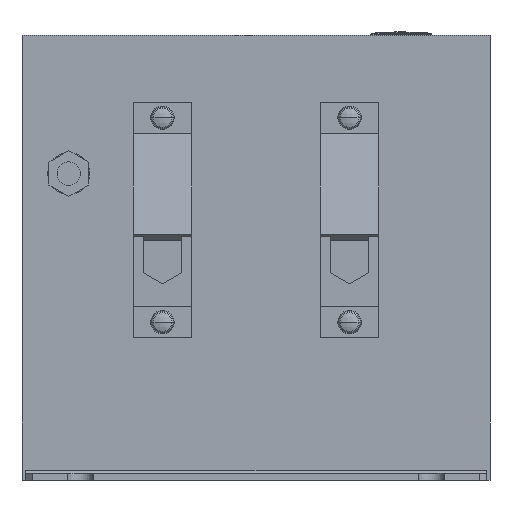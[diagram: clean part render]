
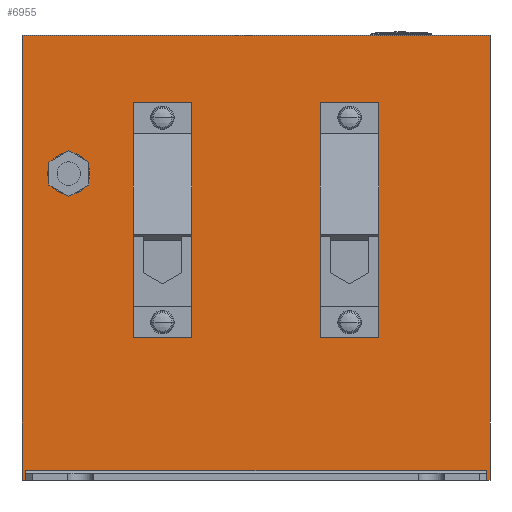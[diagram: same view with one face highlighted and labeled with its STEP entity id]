
A CAD part, front view. The second image highlights one B-rep face of the part: STEP entity #6955.
In plain terms, the highlighted planar face has unit normal (0, -1, 0).
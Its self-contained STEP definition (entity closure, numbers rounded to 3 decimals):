
#95 = FACE_BOUND ( 'NONE', #3796, .T. ) ;
#117 = VERTEX_POINT ( 'NONE', #2420 ) ;
#128 = VECTOR ( 'NONE', #5386, 1000. ) ;
#289 = CARTESIAN_POINT ( 'NONE',  ( 52.5, -248.5, 102.4 ) ) ;
#307 = CARTESIAN_POINT ( 'NONE',  ( -27.5, -248.5, 161.5 ) ) ;
#322 = DIRECTION ( 'NONE',  ( 0., 0., 1. ) ) ;
#334 = VERTEX_POINT ( 'NONE', #6936 ) ;
#391 = ORIENTED_EDGE ( 'NONE', *, *, #8195, .F. ) ;
#407 = CARTESIAN_POINT ( 'NONE',  ( -80., -248.5, 131. ) ) ;
#443 = EDGE_CURVE ( 'NONE', #6466, #7477, #7190, .T. ) ;
#468 = VECTOR ( 'NONE', #3237, 1000. ) ;
#528 = ORIENTED_EDGE ( 'NONE', *, *, #1593, .F. ) ;
#529 = LINE ( 'NONE', #4407, #468 ) ;
#603 = DIRECTION ( 'NONE',  ( 0., 0., -1. ) ) ;
#675 = VECTOR ( 'NONE', #6507, 1000. ) ;
#688 = VECTOR ( 'NONE', #4532, 1000. ) ;
#772 = VERTEX_POINT ( 'NONE', #8397 ) ;
#866 = EDGE_CURVE ( 'NONE', #4604, #6785, #2213, .T. ) ;
#904 = DIRECTION ( 'NONE',  ( 1., 0., 0. ) ) ;
#922 = EDGE_CURVE ( 'NONE', #5383, #334, #8044, .T. ) ;
#988 = CARTESIAN_POINT ( 'NONE',  ( 27.5, -248.5, 60.8 ) ) ;
#1007 = VERTEX_POINT ( 'NONE', #2733 ) ;
#1110 = VERTEX_POINT ( 'NONE', #2920 ) ;
#1293 = CARTESIAN_POINT ( 'NONE',  ( 100., -248.5, 0. ) ) ;
#1337 = LINE ( 'NONE', #7319, #128 ) ;
#1405 = ORIENTED_EDGE ( 'NONE', *, *, #5310, .T. ) ;
#1462 = ORIENTED_EDGE ( 'NONE', *, *, #2715, .F. ) ;
#1521 = ORIENTED_EDGE ( 'NONE', *, *, #8185, .F. ) ;
#1556 = DIRECTION ( 'NONE',  ( 0., 0., -1. ) ) ;
#1593 = EDGE_CURVE ( 'NONE', #8266, #772, #7853, .T. ) ;
#1622 = CARTESIAN_POINT ( 'NONE',  ( 98.5, -248.5, 1.5 ) ) ;
#1784 = VERTEX_POINT ( 'NONE', #3292 ) ;
#1787 = CARTESIAN_POINT ( 'NONE',  ( 98.5, -248.5, 2.5 ) ) ;
#1838 = CARTESIAN_POINT ( 'NONE',  ( 52.5, -248.5, 161.5 ) ) ;
#1860 = CARTESIAN_POINT ( 'NONE',  ( 100., -248.5, 0. ) ) ;
#1901 = DIRECTION ( 'NONE',  ( 1., 0., 0. ) ) ;
#1928 = ORIENTED_EDGE ( 'NONE', *, *, #8444, .F. ) ;
#1991 = ORIENTED_EDGE ( 'NONE', *, *, #4908, .F. ) ;
#2018 = CARTESIAN_POINT ( 'NONE',  ( -100., -248.5, 190. ) ) ;
#2148 = CIRCLE ( 'NONE', #4906, 9. ) ;
#2149 = VECTOR ( 'NONE', #904, 1000. ) ;
#2153 = VECTOR ( 'NONE', #3908, 1000. ) ;
#2213 = LINE ( 'NONE', #4856, #7746 ) ;
#2318 = CARTESIAN_POINT ( 'NONE',  ( 100., -248.5, 0. ) ) ;
#2420 = CARTESIAN_POINT ( 'NONE',  ( -98.5, -248.5, 0. ) ) ;
#2506 = AXIS2_PLACEMENT_3D ( 'NONE', #1622, #2914, #7585 ) ;
#2607 = CARTESIAN_POINT ( 'NONE',  ( 98.5, -248.5, 4. ) ) ;
#2678 = CARTESIAN_POINT ( 'NONE',  ( 100., -248.5, 1.5 ) ) ;
#2680 = VECTOR ( 'NONE', #3782, 1000. ) ;
#2695 = ORIENTED_EDGE ( 'NONE', *, *, #5489, .T. ) ;
#2715 = EDGE_CURVE ( 'NONE', #4632, #1007, #8482, .T. ) ;
#2733 = CARTESIAN_POINT ( 'NONE',  ( 27.5, -248.5, 161.5 ) ) ;
#2747 = EDGE_CURVE ( 'NONE', #6547, #5632, #1337, .T. ) ;
#2789 = VECTOR ( 'NONE', #5344, 1000. ) ;
#2902 = AXIS2_PLACEMENT_3D ( 'NONE', #407, #8526, #4506 ) ;
#2907 = VECTOR ( 'NONE', #1901, 1000. ) ;
#2914 = DIRECTION ( 'NONE',  ( 0., 1., 0. ) ) ;
#2920 = CARTESIAN_POINT ( 'NONE',  ( 98.5, -248.5, 0. ) ) ;
#2989 = EDGE_CURVE ( 'NONE', #7914, #1784, #5800, .T. ) ;
#3237 = DIRECTION ( 'NONE',  ( 0., 0., 1. ) ) ;
#3292 = CARTESIAN_POINT ( 'NONE',  ( 100., -248.5, 190. ) ) ;
#3330 = EDGE_CURVE ( 'NONE', #1110, #6466, #6433, .T. ) ;
#3332 = CARTESIAN_POINT ( 'NONE',  ( -100., -248.5, 0. ) ) ;
#3511 = ORIENTED_EDGE ( 'NONE', *, *, #5644, .T. ) ;
#3536 = CARTESIAN_POINT ( 'NONE',  ( -52.5, -248.5, 161.5 ) ) ;
#3616 = CARTESIAN_POINT ( 'NONE',  ( -27.5, -248.5, 60.8 ) ) ;
#3644 = DIRECTION ( 'NONE',  ( 0., 0., 1. ) ) ;
#3656 = DIRECTION ( 'NONE',  ( 1., 0., 0. ) ) ;
#3782 = DIRECTION ( 'NONE',  ( 0., 0., 1. ) ) ;
#3793 = DIRECTION ( 'NONE',  ( 0., 0., 1. ) ) ;
#3796 = EDGE_LOOP ( 'NONE', ( #6195, #1991 ) ) ;
#3835 = LINE ( 'NONE', #5927, #4617 ) ;
#3890 = CARTESIAN_POINT ( 'NONE',  ( 52.5, -248.5, 161.5 ) ) ;
#3908 = DIRECTION ( 'NONE',  ( 0., 0., 1. ) ) ;
#3915 = CARTESIAN_POINT ( 'NONE',  ( -98.5, -248.5, 4. ) ) ;
#4016 = ORIENTED_EDGE ( 'NONE', *, *, #2747, .F. ) ;
#4139 = EDGE_LOOP ( 'NONE', ( #5236, #2695, #4016, #1521 ) ) ;
#4228 = FACE_OUTER_BOUND ( 'NONE', #5440, .T. ) ;
#4388 = EDGE_CURVE ( 'NONE', #5988, #7014, #5519, .T. ) ;
#4407 = CARTESIAN_POINT ( 'NONE',  ( -52.5, -248.5, 60.8 ) ) ;
#4447 = LINE ( 'NONE', #7082, #7493 ) ;
#4506 = DIRECTION ( 'NONE',  ( 0., 0., 1. ) ) ;
#4532 = DIRECTION ( 'NONE',  ( 0., 0., 1. ) ) ;
#4565 = DIRECTION ( 'NONE',  ( 1., 0., 0. ) ) ;
#4604 = VERTEX_POINT ( 'NONE', #2018 ) ;
#4613 = CARTESIAN_POINT ( 'NONE',  ( -98.5, -248.5, 2.5 ) ) ;
#4617 = VECTOR ( 'NONE', #8513, 1000. ) ;
#4632 = VERTEX_POINT ( 'NONE', #1838 ) ;
#4664 = CARTESIAN_POINT ( 'NONE',  ( -89., -248.5, 131. ) ) ;
#4856 = CARTESIAN_POINT ( 'NONE',  ( -100., -248.5, 1.5 ) ) ;
#4906 = AXIS2_PLACEMENT_3D ( 'NONE', #6287, #8226, #322 ) ;
#4908 = EDGE_CURVE ( 'NONE', #334, #5383, #2148, .T. ) ;
#4948 = CARTESIAN_POINT ( 'NONE',  ( -52.5, -248.5, 60.8 ) ) ;
#5096 = FACE_BOUND ( 'NONE', #4139, .T. ) ;
#5184 = VECTOR ( 'NONE', #4565, 1000. ) ;
#5236 = ORIENTED_EDGE ( 'NONE', *, *, #4388, .F. ) ;
#5310 = EDGE_CURVE ( 'NONE', #8266, #1007, #6927, .T. ) ;
#5322 = CARTESIAN_POINT ( 'NONE',  ( 27.5, -248.5, 60.8 ) ) ;
#5344 = DIRECTION ( 'NONE',  ( -1., 0., 0. ) ) ;
#5383 = VERTEX_POINT ( 'NONE', #4664 ) ;
#5386 = DIRECTION ( 'NONE',  ( -1., 0., 0. ) ) ;
#5440 = EDGE_LOOP ( 'NONE', ( #8409, #3511, #7173, #6999, #6910, #6145, #7781, #391 ) ) ;
#5489 = EDGE_CURVE ( 'NONE', #5988, #5632, #529, .T. ) ;
#5519 = LINE ( 'NONE', #6133, #2149 ) ;
#5617 = LINE ( 'NONE', #2318, #7808 ) ;
#5632 = VERTEX_POINT ( 'NONE', #3536 ) ;
#5644 = EDGE_CURVE ( 'NONE', #6785, #117, #5617, .T. ) ;
#5800 = LINE ( 'NONE', #2678, #688 ) ;
#5849 = EDGE_LOOP ( 'NONE', ( #528, #1405, #1462, #1928 ) ) ;
#5889 = EDGE_CURVE ( 'NONE', #7477, #117, #6736, .T. ) ;
#5927 = CARTESIAN_POINT ( 'NONE',  ( 100., -248.5, 190. ) ) ;
#5988 = VERTEX_POINT ( 'NONE', #4948 ) ;
#6133 = CARTESIAN_POINT ( 'NONE',  ( -52.5, -248.5, 60.8 ) ) ;
#6145 = ORIENTED_EDGE ( 'NONE', *, *, #6772, .T. ) ;
#6165 = VECTOR ( 'NONE', #603, 1000. ) ;
#6195 = ORIENTED_EDGE ( 'NONE', *, *, #922, .F. ) ;
#6287 = CARTESIAN_POINT ( 'NONE',  ( -80., -248.5, 131. ) ) ;
#6304 = LINE ( 'NONE', #289, #2680 ) ;
#6433 = LINE ( 'NONE', #1787, #2153 ) ;
#6466 = VERTEX_POINT ( 'NONE', #6951 ) ;
#6507 = DIRECTION ( 'NONE',  ( -1., 0., 0. ) ) ;
#6547 = VERTEX_POINT ( 'NONE', #307 ) ;
#6736 = LINE ( 'NONE', #4613, #6165 ) ;
#6772 = EDGE_CURVE ( 'NONE', #1110, #7914, #7780, .T. ) ;
#6785 = VERTEX_POINT ( 'NONE', #3332 ) ;
#6894 = FACE_BOUND ( 'NONE', #5849, .T. ) ;
#6910 = ORIENTED_EDGE ( 'NONE', *, *, #3330, .F. ) ;
#6927 = LINE ( 'NONE', #988, #8219 ) ;
#6936 = CARTESIAN_POINT ( 'NONE',  ( -71., -248.5, 131. ) ) ;
#6951 = CARTESIAN_POINT ( 'NONE',  ( 98.5, -248.5, 4. ) ) ;
#6955 = ADVANCED_FACE ( 'NONE', ( #95, #4228, #6894, #5096 ), #7721, .F. ) ;
#6999 = ORIENTED_EDGE ( 'NONE', *, *, #443, .F. ) ;
#7014 = VERTEX_POINT ( 'NONE', #3616 ) ;
#7082 = CARTESIAN_POINT ( 'NONE',  ( -27.5, -248.5, 102.4 ) ) ;
#7130 = CARTESIAN_POINT ( 'NONE',  ( 27.5, -248.5, 60.8 ) ) ;
#7173 = ORIENTED_EDGE ( 'NONE', *, *, #5889, .F. ) ;
#7190 = LINE ( 'NONE', #2607, #675 ) ;
#7319 = CARTESIAN_POINT ( 'NONE',  ( -27.5, -248.5, 161.5 ) ) ;
#7477 = VERTEX_POINT ( 'NONE', #3915 ) ;
#7493 = VECTOR ( 'NONE', #3793, 1000. ) ;
#7585 = DIRECTION ( 'NONE',  ( -1., 0., 0. ) ) ;
#7721 = PLANE ( 'NONE',  #2506 ) ;
#7746 = VECTOR ( 'NONE', #1556, 1000. ) ;
#7780 = LINE ( 'NONE', #1860, #2907 ) ;
#7781 = ORIENTED_EDGE ( 'NONE', *, *, #2989, .T. ) ;
#7808 = VECTOR ( 'NONE', #3656, 1000. ) ;
#7853 = LINE ( 'NONE', #5322, #5184 ) ;
#7914 = VERTEX_POINT ( 'NONE', #1293 ) ;
#8044 = CIRCLE ( 'NONE', #2902, 9. ) ;
#8185 = EDGE_CURVE ( 'NONE', #7014, #6547, #4447, .T. ) ;
#8195 = EDGE_CURVE ( 'NONE', #4604, #1784, #3835, .T. ) ;
#8219 = VECTOR ( 'NONE', #3644, 1000. ) ;
#8226 = DIRECTION ( 'NONE',  ( 0., -1., 0. ) ) ;
#8266 = VERTEX_POINT ( 'NONE', #7130 ) ;
#8397 = CARTESIAN_POINT ( 'NONE',  ( 52.5, -248.5, 60.8 ) ) ;
#8409 = ORIENTED_EDGE ( 'NONE', *, *, #866, .T. ) ;
#8444 = EDGE_CURVE ( 'NONE', #772, #4632, #6304, .T. ) ;
#8482 = LINE ( 'NONE', #3890, #2789 ) ;
#8513 = DIRECTION ( 'NONE',  ( 1., 0., 0. ) ) ;
#8526 = DIRECTION ( 'NONE',  ( 0., -1., 0. ) ) ;
